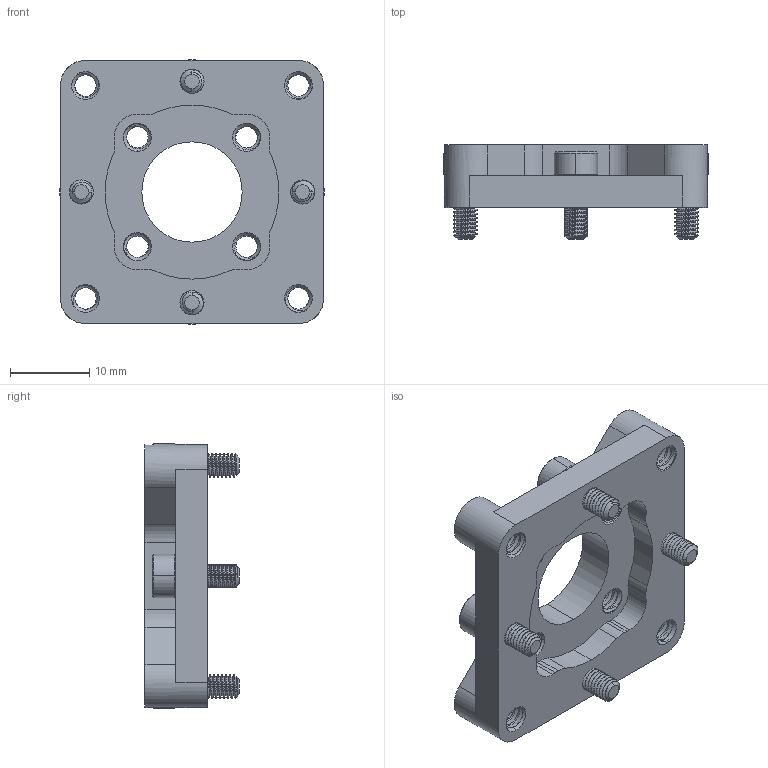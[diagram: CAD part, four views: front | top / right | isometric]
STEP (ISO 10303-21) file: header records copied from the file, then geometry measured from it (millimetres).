
FILE_DESCRIPTION (( 'STEP AP203' ), '1' );
FILE_NAME ('555200 assembly.STEP', '2019-02-20T15:47:59', ( '' ), ( '' ), 'SwSTEP 2.0', 'SolidWorks 2016', '' );
FILE_SCHEMA (( 'CONFIG_CONTROL_DESIGN' ));
Length unit declared in the file: millimetre
Products named in the file (3): 555200 screw_91290A111; 555200; 555200 assembly
Assembly tree (5 placements, depth 2):
  555200 assembly
    555200
    555200 screw_91290A111  x4
Bounding box: 33.5 x 11.9 x 33.5 mm (x, y, z)
Volume: 4899.6 mm3; surface area: 5067.5 mm2
Topology: 5 solids, 5 shells, 772 faces, 2148 edges, 1395 vertices
Faces by surface type: cylinder 569, cone 116, plane 63, bspline 24
Entity records: 27939 total; most frequent: CARTESIAN_POINT 16770, ORIENTED_EDGE 2772, DIRECTION 1834, EDGE_CURVE 1386, VERTEX_POINT 906, AXIS2_PLACEMENT_3D 685, EDGE_LOOP 516, ADVANCED_FACE 487
